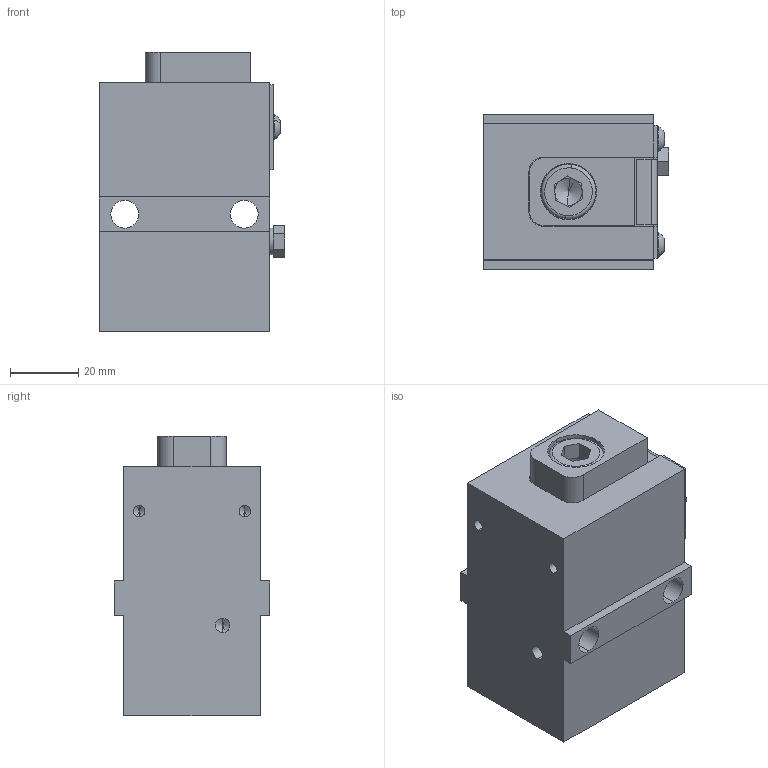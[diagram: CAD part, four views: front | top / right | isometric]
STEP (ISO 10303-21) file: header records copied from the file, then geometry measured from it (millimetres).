
FILE_DESCRIPTION (( 'STEP AP203' ), '1' );
FILE_NAME ('PNU-395-09-EW_Grundstellung.STEP', '2021-09-20T08:17:42', ( '' ), ( '' ), 'SwSTEP 2.0', 'SolidWorks 2019', '' );
FILE_SCHEMA (( 'CONFIG_CONTROL_DESIGN' ));
Length unit declared in the file: millimetre
Products named in the file (1): PNU-395-09-EW_Grundstellung
Bounding box: 54.4 x 45.6 x 82 mm (x, y, z)
Volume: 137292.3 mm3; surface area: 36119.1 mm2
Topology: 10 solids, 10 shells, 215 faces, 513 edges, 323 vertices
Faces by surface type: plane 106, cylinder 79, cone 20, torus 6, sphere 4
Entity records: 6234 total; most frequent: DIRECTION 1129, CARTESIAN_POINT 1038, ORIENTED_EDGE 998, EDGE_CURVE 499, AXIS2_PLACEMENT_3D 414, VERTEX_POINT 323, LINE 301, VECTOR 301
